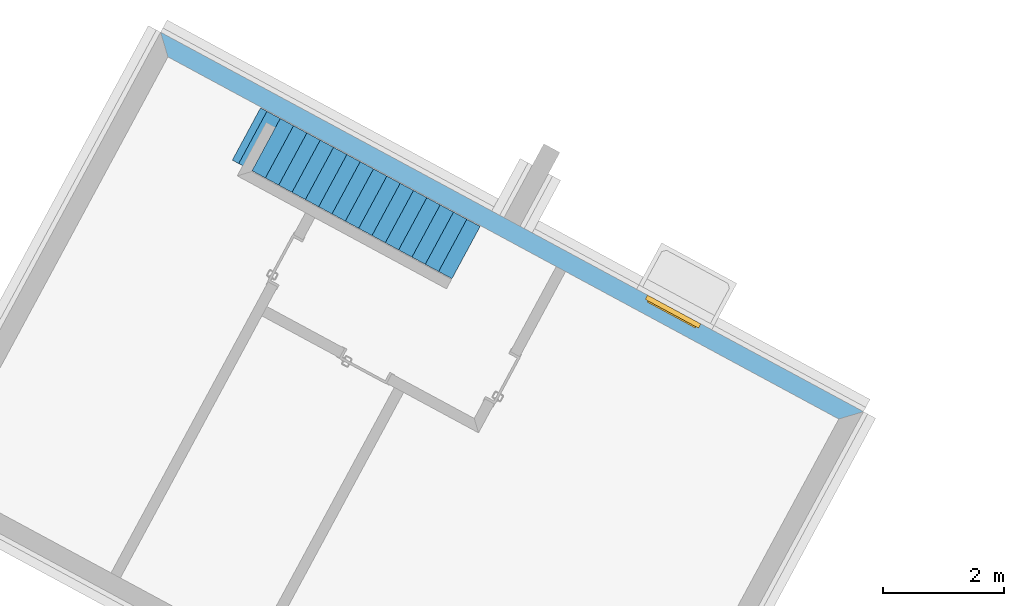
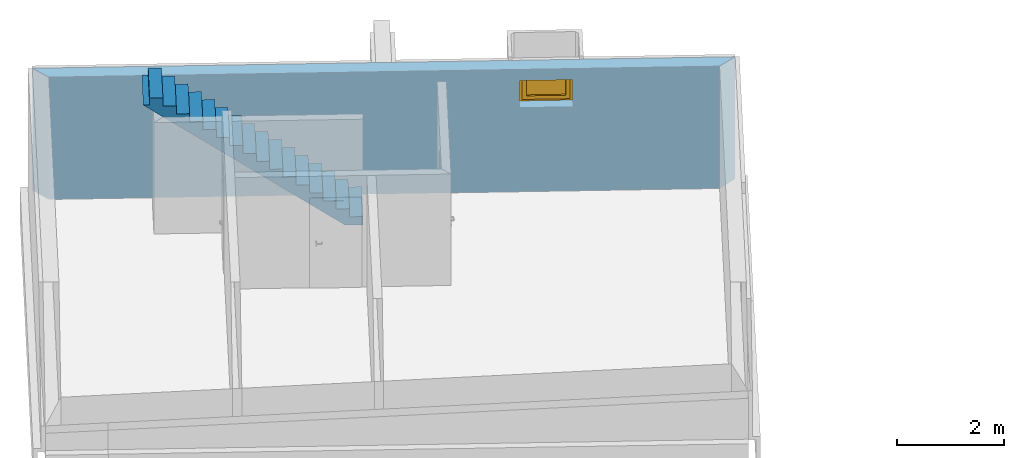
# One storey, part 6 of 8: 1 stair, 1 window, 1 opening, plus 1 element that does not belong to this part.
"""IFC2X3 building model written with IfcOpenShell, lengths in metres."""

from ifc_helpers import new_model, entity, si_unit, converted_unit, derived_unit, money_unit, direction, frame, origin_with_axes, origin_2d_with_axis, place, context, subcontext, project, spatial, polyline, rectangle, outline, extrude, faceted_brep, material, layer, layer_set, layer_usage, type_object, element, fill, save


model = new_model("IFC2X3")

# Units and contexts
model_context = context("Model", 3, precision=1e-05, world=origin_with_axes(), true_north=direction((0.0, 1.0)))
body_context = subcontext(model_context, "Body", "Model", "MODEL_VIEW")
ifc_project = project(units=[si_unit("LENGTHUNIT", "METRE"), si_unit("AREAUNIT", "SQUARE_METRE"), si_unit("VOLUMEUNIT", "CUBIC_METRE"), converted_unit("PLANEANGLEUNIT", "DEGREE", entity("IfcPlaneAngleMeasure", 0.0174532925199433), si_unit("PLANEANGLEUNIT", "RADIAN"), dimensions=[0, 0, 0, 0, 0, 0, 0]), money_unit("EUR"), converted_unit("TIMEUNIT", "Year", entity("IfcTimeMeasure", 31556926.0), si_unit("TIMEUNIT", "SECOND"), dimensions=[0, 0, 1, 0, 0, 0, 0]), si_unit("MASSUNIT", "GRAM", prefix="KILO"), si_unit("THERMODYNAMICTEMPERATUREUNIT", "DEGREE_CELSIUS"), si_unit("LUMINOUSINTENSITYUNIT", "LUMEN"), si_unit("ENERGYUNIT", "JOULE", prefix="MEGA"), derived_unit("THERMALCONDUCTANCEUNIT", [(si_unit("POWERUNIT", "WATT"), 1), (si_unit("LENGTHUNIT", "METRE"), -1), (si_unit("THERMODYNAMICTEMPERATUREUNIT", "KELVIN"), -1)]), derived_unit("SPECIFICHEATCAPACITYUNIT", [(si_unit("ENERGYUNIT", "JOULE"), 1), (si_unit("MASSUNIT", "GRAM", prefix="KILO"), -1), (si_unit("THERMODYNAMICTEMPERATUREUNIT", "KELVIN"), -1)]), derived_unit("MASSDENSITYUNIT", [(si_unit("MASSUNIT", "GRAM", prefix="KILO"), 1), (si_unit("VOLUMEUNIT", "CUBIC_METRE"), -1)])], contexts=[model_context])

# Site, building, storey
site_placement = place(None, frame((-3.949935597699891, 1.740105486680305, 0.0), z_axis=(0.0, 0.0, 1.0), x_axis=(0.8799804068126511, -0.475009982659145, 0.0)))
site = spatial("IfcSite", under=ifc_project, at=site_placement, Name="Gelände", CompositionType="ELEMENT")
building_placement = place(site_placement, origin_with_axes())
building = spatial("IfcBuilding", under=site, at=building_placement, Name="Gebäude", CompositionType="ELEMENT")
storey_placement = place(building_placement, frame((0.0, 0.0, -2.98), z_axis=(0.0, 0.0, 1.0), x_axis=(1.0, 0.0, 0.0)))
storey = spatial("IfcBuildingStorey", under=building, at=storey_placement, Name="Kellergeschoss", CompositionType="ELEMENT", Elevation=-2.98)

# Wall, opening, window
ifc_material_1 = material(Name="_SIWH - Beton, Stahlbeton")
ifc_layer = layer(ifc_material_1, 0.3, ventilated="UNKNOWN")
ifc_layer_set = layer_set([ifc_layer], Name="_SIWH - WA | Stb. 30 | 30cm")
ifc_layer_usage = layer_usage(ifc_layer_set, "AXIS2", "NEGATIVE", 0.0)
wall_type = type_object("IfcWallType", Name="_SIWH - WA | Stb. 30 | 30cm 300", PredefinedType="NOTDEFINED")
wall_placement = place(storey_placement, frame((4.182481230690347, 19.2003203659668, 0.0), z_axis=(0.0, 0.0, 1.0), x_axis=(1.0, 0.0, 0.0)))
wall = element("IfcWallStandardCase", 1, at=wall_placement, inside=storey, type_object=wall_type, material=ifc_layer_usage, Name="A-Wand039", ObjectType="NOTDEFINED", context=body_context, shape_type="SweptSolid", body=[
    extrude(outline(polyline([(0.3000018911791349, -0.3000000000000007), (12.88499724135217, -0.3000000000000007), (13.18499704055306, 0.0), (0.0, 0.0), (0.3000018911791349, -0.3000000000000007)])), origin_with_axes(), (0.0, 0.0, 1.0), 2.8),
])
opening_placement = place(wall_placement, frame((9.634995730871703, 0.0, 1.925), z_axis=(0.0, 0.0, 1.0), x_axis=(1.0, 0.0, 0.0)))
opening = element("IfcOpeningElement", 2, at=opening_placement, cuts=wall, Name="Fenster-016", context=body_context, shape_type="SweptSolid", body=[
    extrude(rectangle(XDim=1.0, YDim=0.625, at=origin_2d_with_axis()), frame((0.0, -0.3000000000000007, 0.3125), z_axis=(0.0, -1.0, 0.0), x_axis=(1.0, 0.0, 0.0)), (0.0, 0.0, -1.0), 0.8999999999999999),
])
window_style = type_object("IfcWindowStyle", Name="1-Flügelfenster 22", ConstructionType="NOTDEFINED", OperationType="SINGLE_PANEL", ParameterTakesPrecedence=False, Sizeable=False)
window_placement = place(opening_placement, frame((0.4999999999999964, 0.0, 0.0), z_axis=(0.0, 0.0, 1.0), x_axis=(-1.0, 0.0, 0.0)))
window = element("IfcWindow", 3, at=window_placement, inside=storey, type_object=window_style, Name="Fenster-016", ObjectType="WINDOW", OverallHeight=0.625, OverallWidth=1.0, context=body_context, shape_type="Brep", body=[
    faceted_brep([(1.0, 0.0, 0.0), (0.9000000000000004, 0.0, 0.09999999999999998), (0.9000000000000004, 0.08000000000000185, 0.09999999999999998), (1.0, 0.08000000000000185, 0.0), (1.0, 0.0, 0.625), (0.9000000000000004, 0.0, 0.525), (0.9000000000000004, 0.08000000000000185, 0.525), (1.0, 0.08000000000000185, 0.625)], [[[0, 1, 2, 3]], [[0, 4, 5, 1]], [[1, 5, 6, 2]], [[3, 2, 6, 7]], [[4, 0, 3, 7]], [[5, 4, 7, 6]]]),
    faceted_brep([(0.0, 0.0, 0.0), (0.0, 0.0, 0.625), (0.0, 0.08000000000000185, 0.625), (0.0, 0.08000000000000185, 0.0), (0.09999999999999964, 0.0, 0.09999999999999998), (0.09999999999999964, 0.0, 0.525), (0.09999999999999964, 0.08000000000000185, 0.525), (0.09999999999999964, 0.08000000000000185, 0.09999999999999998)], [[[0, 1, 2, 3]], [[0, 4, 5, 1]], [[1, 5, 6, 2]], [[3, 2, 6, 7]], [[4, 0, 3, 7]], [[5, 4, 7, 6]]]),
    faceted_brep([(1.0, 0.0, 0.0), (0.0, 0.0, 0.0), (0.0, 0.08000000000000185, 0.0), (1.0, 0.08000000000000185, 0.0), (0.9000000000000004, 0.0, 0.09999999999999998), (0.5, 0.0, 0.09999999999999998), (0.09999999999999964, 0.0, 0.09999999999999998), (0.09999999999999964, 0.08000000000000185, 0.09999999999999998), (0.5, 0.08000000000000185, 0.09999999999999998), (0.9000000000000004, 0.08000000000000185, 0.09999999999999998)], [[[0, 1, 2, 3]], [[0, 4, 5, 6, 1]], [[1, 6, 7, 2]], [[3, 2, 7, 8, 9]], [[4, 0, 3, 9]], [[5, 4, 9, 8]], [[6, 5, 8, 7]]]),
    faceted_brep([(1.0, 0.0, 0.625), (0.9000000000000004, 0.0, 0.525), (0.9000000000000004, 0.08000000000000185, 0.525), (1.0, 0.08000000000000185, 0.625), (0.0, 0.0, 0.625), (0.09999999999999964, 0.0, 0.525), (0.5, 0.0, 0.525), (0.5, 0.08000000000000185, 0.525), (0.09999999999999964, 0.08000000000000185, 0.525), (0.0, 0.08000000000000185, 0.625)], [[[0, 1, 2, 3]], [[0, 4, 5, 6, 1]], [[1, 6, 7, 2]], [[3, 2, 7, 8, 9]], [[4, 0, 3, 9]], [[5, 4, 9, 8]], [[6, 5, 8, 7]]]),
    faceted_brep([(0.9499999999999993, 0.08000000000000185, 0.05000000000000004), (0.8699999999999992, 0.08000000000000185, 0.13), (0.8699999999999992, 0.1050000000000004, 0.13), (0.9499999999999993, 0.1050000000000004, 0.05000000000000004), (0.9499999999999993, 0.08000000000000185, 0.5750000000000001), (0.8699999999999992, 0.08000000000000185, 0.495), (0.8699999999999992, 0.1050000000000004, 0.495), (0.9499999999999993, 0.1050000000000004, 0.5750000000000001)], [[[0, 1, 2, 3]], [[0, 4, 5, 1]], [[1, 5, 6, 2]], [[3, 2, 6, 7]], [[4, 0, 3, 7]], [[5, 4, 7, 6]]]),
    faceted_brep([(0.05000000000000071, 0.08000000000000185, 0.05000000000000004), (0.05000000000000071, 0.1050000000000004, 0.05000000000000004), (0.1300000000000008, 0.1050000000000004, 0.13), (0.1300000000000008, 0.08000000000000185, 0.13), (0.05000000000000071, 0.08000000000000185, 0.5750000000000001), (0.05000000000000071, 0.1050000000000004, 0.5750000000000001), (0.1300000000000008, 0.1050000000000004, 0.495), (0.1300000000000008, 0.08000000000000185, 0.495)], [[[0, 1, 2, 3]], [[4, 5, 1, 0]], [[1, 5, 6, 2]], [[3, 2, 6, 7]], [[0, 3, 7, 4]], [[7, 6, 5, 4]]]),
    faceted_brep([(0.9499999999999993, 0.08000000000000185, 0.05000000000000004), (0.05000000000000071, 0.08000000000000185, 0.05000000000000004), (0.05000000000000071, 0.1050000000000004, 0.05000000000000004), (0.9499999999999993, 0.1050000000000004, 0.05000000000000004), (0.8699999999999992, 0.08000000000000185, 0.13), (0.1300000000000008, 0.08000000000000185, 0.13), (0.1300000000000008, 0.1050000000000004, 0.13), (0.8699999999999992, 0.1050000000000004, 0.13)], [[[0, 1, 2, 3]], [[0, 4, 5, 1]], [[1, 5, 6, 2]], [[3, 2, 6, 7]], [[4, 0, 3, 7]], [[5, 4, 7, 6]]]),
    faceted_brep([(0.9499999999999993, 0.08000000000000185, 0.575), (0.9499999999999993, 0.1050000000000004, 0.575), (0.05000000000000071, 0.1050000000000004, 0.575), (0.05000000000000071, 0.08000000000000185, 0.575), (0.8699999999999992, 0.08000000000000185, 0.4949999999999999), (0.8699999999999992, 0.1050000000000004, 0.4949999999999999), (0.1300000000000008, 0.1050000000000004, 0.4949999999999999), (0.1300000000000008, 0.08000000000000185, 0.4949999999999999)], [[[0, 1, 2, 3]], [[4, 5, 1, 0]], [[1, 5, 6, 2]], [[3, 2, 6, 7]], [[0, 3, 7, 4]], [[7, 6, 5, 4]]]),
    faceted_brep([(0.9000000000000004, 0.02500000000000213, 0.09999999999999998), (0.8699999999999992, 0.02500000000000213, 0.13), (0.8699999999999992, 0.08000000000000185, 0.13), (0.9000000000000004, 0.08000000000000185, 0.09999999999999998), (0.9000000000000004, 0.02500000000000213, 0.525), (0.8699999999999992, 0.02500000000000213, 0.495), (0.8699999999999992, 0.08000000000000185, 0.495), (0.9000000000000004, 0.08000000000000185, 0.525)], [[[0, 1, 2, 3]], [[0, 4, 5, 1]], [[1, 5, 6, 2]], [[3, 2, 6, 7]], [[4, 0, 3, 7]], [[5, 4, 7, 6]]]),
    faceted_brep([(0.09999999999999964, 0.02500000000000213, 0.09999999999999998), (0.09999999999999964, 0.08000000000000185, 0.09999999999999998), (0.1300000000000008, 0.08000000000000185, 0.13), (0.1300000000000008, 0.02500000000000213, 0.13), (0.09999999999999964, 0.02500000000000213, 0.525), (0.09999999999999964, 0.08000000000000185, 0.525), (0.1300000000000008, 0.08000000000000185, 0.495), (0.1300000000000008, 0.02500000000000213, 0.495)], [[[0, 1, 2, 3]], [[4, 5, 1, 0]], [[1, 5, 6, 2]], [[3, 2, 6, 7]], [[0, 3, 7, 4]], [[7, 6, 5, 4]]]),
    faceted_brep([(0.9000000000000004, 0.02500000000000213, 0.09999999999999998), (0.09999999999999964, 0.02500000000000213, 0.09999999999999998), (0.09999999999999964, 0.08000000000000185, 0.09999999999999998), (0.9000000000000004, 0.08000000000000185, 0.09999999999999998), (0.8699999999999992, 0.02500000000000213, 0.13), (0.1300000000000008, 0.02500000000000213, 0.13), (0.1300000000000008, 0.08000000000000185, 0.13), (0.8699999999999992, 0.08000000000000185, 0.13)], [[[0, 1, 2, 3]], [[0, 4, 5, 1]], [[1, 5, 6, 2]], [[3, 2, 6, 7]], [[4, 0, 3, 7]], [[5, 4, 7, 6]]]),
    faceted_brep([(0.9000000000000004, 0.02500000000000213, 0.5249999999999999), (0.9000000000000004, 0.08000000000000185, 0.5249999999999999), (0.09999999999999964, 0.08000000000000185, 0.5249999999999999), (0.09999999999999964, 0.02500000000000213, 0.5249999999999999), (0.8699999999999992, 0.02500000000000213, 0.4949999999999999), (0.8699999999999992, 0.08000000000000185, 0.4949999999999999), (0.1300000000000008, 0.08000000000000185, 0.4949999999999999), (0.1300000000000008, 0.02500000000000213, 0.4949999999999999)], [[[0, 1, 2, 3]], [[4, 5, 1, 0]], [[1, 5, 6, 2]], [[3, 2, 6, 7]], [[0, 3, 7, 4]], [[7, 6, 5, 4]]]),
    faceted_brep([(0.8699999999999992, 0.06000000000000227, 0.13), (0.1300000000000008, 0.06000000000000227, 0.13), (0.1300000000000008, 0.07000000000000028, 0.13), (0.8699999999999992, 0.07000000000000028, 0.13), (0.8699999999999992, 0.06000000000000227, 0.495), (0.1300000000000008, 0.06000000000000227, 0.495), (0.1300000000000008, 0.07000000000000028, 0.495), (0.8699999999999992, 0.07000000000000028, 0.495)], [[[0, 1, 2, 3]], [[0, 4, 5, 1]], [[1, 5, 6, 2]], [[3, 2, 6, 7]], [[4, 0, 3, 7]], [[5, 4, 7, 6]]]),
])
fill(opening, window)

# Stair
ifc_material_2 = material(Name="ALLGEMEIN - BAUTEIL")
stair_placement = place(storey_placement, frame((10.34740128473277, 17.90530078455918, 0.0), z_axis=(0.0, 0.0, 1.0), x_axis=(1.0, 0.0, 0.0)))
element("IfcStair", 4, at=stair_placement, inside=storey, material=ifc_material_2, Name="Treppe-001", ShapeType="NOTDEFINED", context=body_context, shape_type="Brep", body=[
    faceted_brep([(-4.120001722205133, -1.918124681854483e-05, 2.82), (-3.99999999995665, -1.862256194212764e-05, 2.82), (-4.000004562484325, 0.9799813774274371, 2.82), (-4.120006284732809, 0.9799808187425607, 2.82), (-3.666666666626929, -1.70706817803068e-05, 2.482265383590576), (-3.5833333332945, -1.668271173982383e-05, 2.420182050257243), (-3.49999999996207, -1.629474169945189e-05, 2.35809871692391), (-3.416666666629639, -1.590677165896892e-05, 2.296015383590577), (-3.333333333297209, -1.551880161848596e-05, 2.233932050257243), (-3.249999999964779, -1.513083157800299e-05, 2.17184871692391), (-3.166666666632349, -1.474286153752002e-05, 2.109765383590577), (-3.083333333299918, -1.435489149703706e-05, 2.047682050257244), (-2.999999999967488, -1.396692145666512e-05, 1.98559871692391), (-2.916666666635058, -1.357895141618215e-05, 1.923515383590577), (-2.833333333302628, -1.319098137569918e-05, 1.861432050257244), (-2.749999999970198, -1.280301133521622e-05, 1.79934871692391), (-2.666666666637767, -1.241504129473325e-05, 1.737265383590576), (-2.583333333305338, -1.20270712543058e-05, 1.675182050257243), (-2.499999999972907, -1.163910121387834e-05, 1.61309871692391), (-2.416666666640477, -1.125113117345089e-05, 1.551015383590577), (-2.333333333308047, -1.086316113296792e-05, 1.488932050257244), (-2.249999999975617, -1.047519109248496e-05, 1.42684871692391), (-2.166666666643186, -1.008722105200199e-05, 1.364765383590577), (-2.083333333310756, -9.699251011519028e-06, 1.302682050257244), (-1.999999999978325, -9.311280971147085e-06, 1.24059871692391), (-1.916666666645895, -8.923310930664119e-06, 1.178515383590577), (-1.833333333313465, -8.535340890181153e-06, 1.116432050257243), (-1.749999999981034, -8.147370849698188e-06, 1.05434871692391), (-1.666666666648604, -7.759400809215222e-06, 0.9922653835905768), (-1.583333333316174, -7.371430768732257e-06, 0.9301820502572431), (-1.499999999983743, -6.983460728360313e-06, 0.8680987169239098), (-1.416666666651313, -6.595490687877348e-06, 0.8060153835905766), (-1.333333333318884, -6.207520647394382e-06, 0.7439320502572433), (-1.249999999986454, -5.819550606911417e-06, 0.6818487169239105), (-1.166666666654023, -5.431580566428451e-06, 0.6197653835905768), (-1.083333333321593, -5.043610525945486e-06, 0.5576820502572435), (-0.9999999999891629, -4.655640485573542e-06, 0.4955987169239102), (-0.9166666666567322, -4.267670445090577e-06, 0.4335153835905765), (-0.833333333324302, -3.879700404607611e-06, 0.3714320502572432), (-0.7499999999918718, -3.491730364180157e-06, 0.30934871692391), (-0.6666666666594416, -3.103760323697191e-06, 0.2472653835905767), (-0.5833333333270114, -2.715790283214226e-06, 0.185182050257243), (-0.4999999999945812, -2.327820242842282e-06, 0.1230987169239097), (-0.416666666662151, -1.939850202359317e-06, 0.06101538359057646), (-0.3347668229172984, -1.558553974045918e-06, 0.0), (0.0, 0.0, 0.0), (0.0, 0.0, 0.1862500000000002), (-0.2499999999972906, -1.163910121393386e-06, 0.1862500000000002), (-0.2499999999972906, -1.163910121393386e-06, 0.3725000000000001), (-0.4999999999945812, -2.327820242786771e-06, 0.3725000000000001), (-0.4999999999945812, -2.327820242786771e-06, 0.5587499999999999), (-0.7499999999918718, -3.491730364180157e-06, 0.5587499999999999), (-0.7499999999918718, -3.491730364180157e-06, 0.7450000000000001), (-0.9999999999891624, -4.655640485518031e-06, 0.7450000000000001), (-0.9999999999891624, -4.655640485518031e-06, 0.9312499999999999), (-1.249999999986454, -5.819550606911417e-06, 0.9312499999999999), (-1.249999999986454, -5.819550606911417e-06, 1.1175), (-1.499999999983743, -6.983460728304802e-06, 1.1175), (-1.499999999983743, -6.983460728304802e-06, 1.30375), (-1.749999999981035, -8.147370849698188e-06, 1.30375), (-1.749999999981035, -8.147370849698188e-06, 1.49), (-1.999999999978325, -9.311280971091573e-06, 1.49), (-1.999999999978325, -9.311280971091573e-06, 1.67625), (-2.249999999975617, -1.047519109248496e-05, 1.67625), (-2.249999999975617, -1.047519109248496e-05, 1.8625), (-2.499999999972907, -1.163910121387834e-05, 1.8625), (-2.499999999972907, -1.163910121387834e-05, 2.04875), (-2.749999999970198, -1.280301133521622e-05, 2.04875), (-2.749999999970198, -1.280301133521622e-05, 2.235), (-2.999999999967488, -1.39669214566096e-05, 2.235), (-2.999999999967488, -1.39669214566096e-05, 2.421250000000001), (-3.249999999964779, -1.513083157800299e-05, 2.421250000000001), (-3.249999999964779, -1.513083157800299e-05, 2.6075), (-3.49999999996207, -1.629474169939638e-05, 2.6075), (-3.49999999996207, -1.629474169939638e-05, 2.79375), (-3.749999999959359, -1.745865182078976e-05, 2.79375), (-3.749999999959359, -1.745865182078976e-05, 2.98), (-3.99999999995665, -1.862256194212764e-05, 2.98), (-3.749999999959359, -1.745865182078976e-05, 2.544348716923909), (-4.000004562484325, 0.9799813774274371, 2.98), (-3.666671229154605, 0.979982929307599, 2.482265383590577), (-3.750004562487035, 0.9799825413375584, 2.544348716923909), (-3.750004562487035, 0.9799825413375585, 2.98), (-3.750004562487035, 0.9799825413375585, 2.79375), (-3.500004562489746, 0.9799837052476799, 2.79375), (-3.500004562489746, 0.9799837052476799, 2.6075), (-3.250004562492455, 0.9799848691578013, 2.6075), (-3.250004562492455, 0.9799848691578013, 2.421250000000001), (-3.000004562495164, 0.9799860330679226, 2.421250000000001), (-3.000004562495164, 0.9799860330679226, 2.235), (-2.750004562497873, 0.979987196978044, 2.235), (-2.750004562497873, 0.979987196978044, 2.04875), (-2.500004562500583, 0.9799883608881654, 2.04875), (-2.500004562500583, 0.9799883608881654, 1.8625), (-2.250004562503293, 0.9799895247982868, 1.8625), (-2.250004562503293, 0.9799895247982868, 1.67625), (-2.000004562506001, 0.9799906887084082, 1.67625), (-2.000004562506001, 0.9799906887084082, 1.49), (-1.750004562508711, 0.9799918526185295, 1.49), (-1.750004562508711, 0.9799918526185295, 1.30375), (-1.500004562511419, 0.9799930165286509, 1.30375), (-1.500004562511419, 0.9799930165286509, 1.1175), (-1.25000456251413, 0.9799941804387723, 1.1175), (-1.25000456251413, 0.9799941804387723, 0.9312500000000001), (-1.000004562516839, 0.9799953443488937, 0.9312499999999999), (-1.000004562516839, 0.9799953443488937, 0.7450000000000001), (-0.7500045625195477, 0.9799965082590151, 0.7450000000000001), (-0.7500045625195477, 0.9799965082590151, 0.5587499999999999), (-0.5000045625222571, 0.9799976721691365, 0.5587499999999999), (-0.5000045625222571, 0.9799976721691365, 0.3725000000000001), (-0.2500045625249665, 0.9799988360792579, 0.3725000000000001), (-0.2500045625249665, 0.9799988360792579, 0.1862499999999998), (-4.562527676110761e-06, 0.9799999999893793, 0.1862500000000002), (-4.562527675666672e-06, 0.9799999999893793, 0.0), (-0.3347713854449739, 0.9799984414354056, 0.0), (-0.4166712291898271, 0.9799980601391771, 0.0610153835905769), (-0.5000045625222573, 0.9799976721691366, 0.1230987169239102), (-0.5833378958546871, 0.9799972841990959, 0.185182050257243), (-0.6666712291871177, 0.9799968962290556, 0.2472653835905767), (-0.7500045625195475, 0.979996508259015, 0.30934871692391), (-0.8333378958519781, 0.9799961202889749, 0.3714320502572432), (-0.9166712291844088, 0.9799957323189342, 0.433515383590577), (-1.000004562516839, 0.9799953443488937, 0.4955987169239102), (-1.083337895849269, 0.9799949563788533, 0.5576820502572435), (-1.166671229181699, 0.9799945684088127, 0.6197653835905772), (-1.25000456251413, 0.9799941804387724, 0.6818487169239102), (-1.333337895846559, 0.979993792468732, 0.7439320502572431), (-1.416671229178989, 0.9799934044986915, 0.8060153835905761), (-1.500004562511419, 0.9799930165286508, 0.8680987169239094), (-1.58333789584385, 0.9799926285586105, 0.9301820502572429), (-1.66667122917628, 0.9799922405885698, 0.9922653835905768), (-1.750004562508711, 0.9799918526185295, 1.054348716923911), (-1.833337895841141, 0.9799914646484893, 1.116432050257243), (-1.916671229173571, 0.979991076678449, 1.178515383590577), (-2.000004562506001, 0.9799906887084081, 1.24059871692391), (-2.083337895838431, 0.9799903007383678, 1.302682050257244), (-2.166671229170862, 0.9799899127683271, 1.364765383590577), (-2.250004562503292, 0.9799895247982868, 1.42684871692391), (-2.333337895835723, 0.9799891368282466, 1.488932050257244), (-2.416671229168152, 0.9799887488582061, 1.551015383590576), (-2.500004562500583, 0.9799883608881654, 1.61309871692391), (-2.583337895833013, 0.9799879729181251, 1.675182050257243), (-2.666671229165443, 0.9799875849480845, 1.737265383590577), (-2.750004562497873, 0.9799871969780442, 1.79934871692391), (-2.833337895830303, 0.9799868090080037, 1.861432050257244), (-2.916671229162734, 0.9799864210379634, 1.923515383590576), (-3.000004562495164, 0.9799860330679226, 1.98559871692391), (-3.083337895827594, 0.9799856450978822, 2.047682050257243), (-3.166671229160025, 0.9799852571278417, 2.109765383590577), (-3.250004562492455, 0.9799848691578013, 2.17184871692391), (-3.333337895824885, 0.979984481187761, 2.233932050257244), (-3.416671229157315, 0.9799840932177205, 2.296015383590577), (-3.500004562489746, 0.97998370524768, 2.358098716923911), (-3.583337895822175, 0.9799833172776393, 2.420182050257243)], [[[0, 1, 2, 3]], [[4, 5, 6, 7, 8, 9, 10, 11, 12, 13, 14, 15, 16, 17, 18, 19, 20, 21, 22, 23, 24, 25, 26, 27, 28, 29, 30, 31, 32, 33, 34, 35, 36, 37, 38, 39, 40, 41, 42, 43, 44, 45, 46, 47, 48, 49, 50, 51, 52, 53, 54, 55, 56, 57, 58, 59, 60, 61, 62, 63, 64, 65, 66, 67, 68, 69, 70, 71, 72, 73, 74, 75, 76, 77, 1, 0, 78]], [[1, 77, 79, 2]], [[80, 81, 3, 2, 79, 82, 83, 84, 85, 86, 87, 88, 89, 90, 91, 92, 93, 94, 95, 96, 97, 98, 99, 100, 101, 102, 103, 104, 105, 106, 107, 108, 109, 110, 111, 112, 113, 114, 115, 116, 117, 118, 119, 120, 121, 122, 123, 124, 125, 126, 127, 128, 129, 130, 131, 132, 133, 134, 135, 136, 137, 138, 139, 140, 141, 142, 143, 144, 145, 146, 147, 148, 149, 150, 151, 152, 153]], [[4, 78, 0, 3, 81, 80]], [[5, 4, 80, 153]], [[6, 5, 153, 152]], [[7, 6, 152, 151]], [[8, 7, 151, 150]], [[9, 8, 150, 149]], [[10, 9, 149, 148]], [[11, 10, 148, 147]], [[11, 147, 146, 12]], [[13, 12, 146, 145]], [[14, 13, 145, 144]], [[15, 14, 144, 143]], [[16, 15, 143, 142]], [[17, 16, 142, 141]], [[18, 17, 141, 140]], [[19, 18, 140, 139]], [[20, 19, 139, 138]], [[21, 20, 138, 137]], [[22, 21, 137, 136]], [[22, 136, 135, 23]], [[24, 23, 135, 134]], [[25, 24, 134, 133]], [[26, 25, 133, 132]], [[27, 26, 132, 131]], [[28, 27, 131, 130]], [[29, 28, 130, 129]], [[30, 29, 129, 128]], [[31, 30, 128, 127]], [[32, 31, 127, 126]], [[33, 32, 126, 125]], [[34, 33, 125, 124]], [[35, 34, 124, 123]], [[36, 35, 123, 122]], [[37, 36, 122, 121]], [[38, 37, 121, 120]], [[39, 38, 120, 119]], [[40, 39, 119, 118]], [[41, 40, 118, 117]], [[42, 41, 117, 116]], [[43, 42, 116, 115]], [[44, 43, 115, 114]], [[45, 44, 114, 113]], [[46, 45, 113, 112]], [[47, 46, 112, 111]], [[48, 47, 111, 110]], [[109, 49, 48, 110]], [[50, 49, 109, 108]], [[51, 50, 108, 107]], [[52, 51, 107, 106]], [[53, 52, 106, 105]], [[54, 53, 105, 104]], [[103, 55, 54, 104]], [[56, 55, 103, 102]], [[101, 57, 56, 102]], [[58, 57, 101, 100]], [[59, 58, 100, 99]], [[60, 59, 99, 98]], [[61, 60, 98, 97]], [[62, 61, 97, 96]], [[63, 62, 96, 95]], [[64, 63, 95, 94]], [[65, 64, 94, 93]], [[66, 65, 93, 92]], [[67, 66, 92, 91]], [[68, 67, 91, 90]], [[69, 68, 90, 89]], [[70, 69, 89, 88]], [[87, 71, 70, 88]], [[72, 71, 87, 86]], [[85, 73, 72, 86]], [[74, 73, 85, 84]], [[75, 74, 84, 83]], [[76, 75, 83, 82]], [[77, 76, 82, 79]]]),
])

save(model, "model.ifc")
